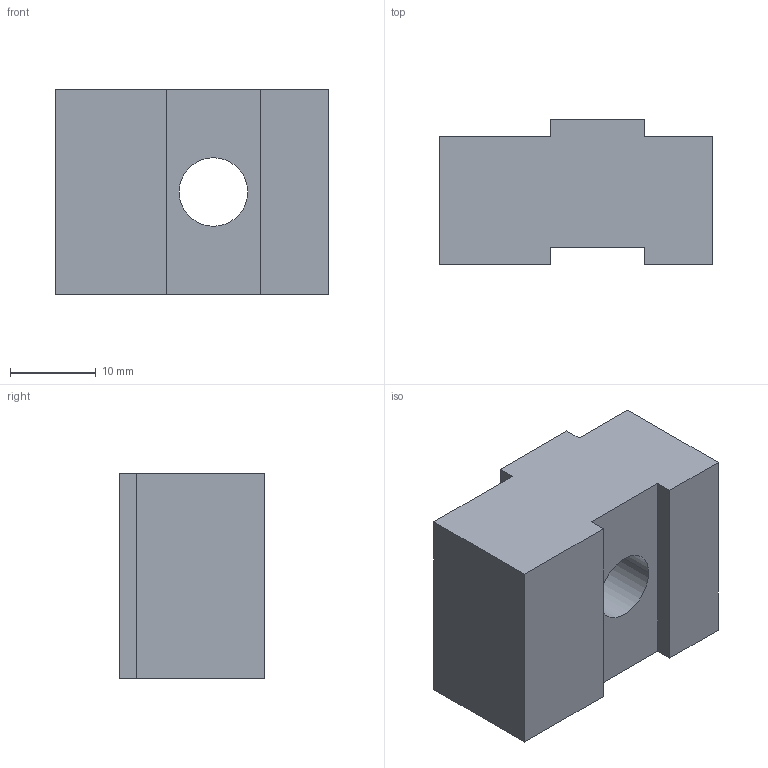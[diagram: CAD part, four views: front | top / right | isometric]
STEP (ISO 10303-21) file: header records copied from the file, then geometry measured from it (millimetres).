
FILE_DESCRIPTION (( 'STEP AP214' ), '1' );
FILE_NAME ('FGRD 15.step', '2017-04-05T07:39:24', ( '' ), ( '' ), 'SwSTEP 2.0', 'SolidWorks 2015', '' );
FILE_SCHEMA (( 'AUTOMOTIVE_DESIGN' ));
Length unit declared in the file: millimetre
Products named in the file (1): FGRD 15
Bounding box: 32 x 17 x 24 mm (x, y, z)
Volume: 10766 mm3; surface area: 3684.5 mm2
Topology: 1 solids, 1 shells, 16 faces, 42 edges, 28 vertices
Faces by surface type: plane 14, cylinder 2
Entity records: 528 total; most frequent: CARTESIAN_POINT 87, ORIENTED_EDGE 84, DIRECTION 80, EDGE_CURVE 42, LINE 38, VECTOR 38, VERTEX_POINT 28, AXIS2_PLACEMENT_3D 21
